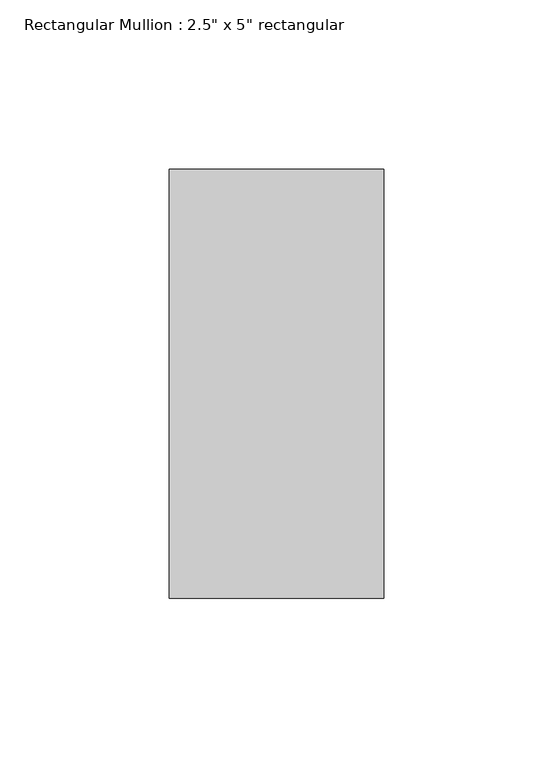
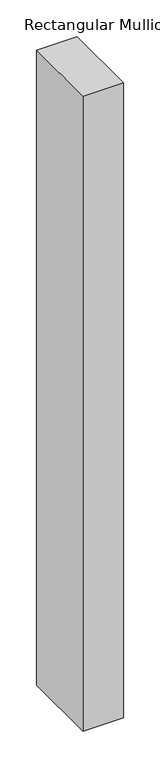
"""IFC4 building model written with IfcOpenShell, lengths in millimetres: member geometry."""

from ifc_helpers import new_model, si_unit, frame, origin, place, context, project, spatial, polyline, outline, extrude, source, transform, mapped, element, save


def member_4308a73e(model_context):
    return source(origin(), model_context, "Body", "SweptSolid", [
        extrude(outline(polyline([(31.75, 63.5), (31.75, -63.5), (-31.75, -63.5), (-31.75, 63.5), (31.75, 63.5)])), frame((0.0, 0.0, -1056.6400002), z_axis=(0.0, 0.0, 1.0), x_axis=(1.0, 0.0, 0.0)), (0.0, 0.0, 1.0), 1056.6400002),
    ])


if __name__ == "__main__":
    model = new_model("IFC4")
    model_context = context("Model", 3, world=origin())
    ifc_project = project(units=[si_unit("LENGTHUNIT", "METRE", prefix="MILLI")], contexts=[model_context])
    site = spatial("IfcSite", under=ifc_project)
    building = spatial("IfcBuilding", under=site)
    placement = place(None, origin())
    member_shape = member_4308a73e(model_context)
    element("IfcMember", 1, ObjectType="Rectangular Mullion : 2.5\" x 5\" rectangular", at=placement, inside=building, context=model_context, shape_type="MappedRepresentation", body=[
        mapped(member_shape, transform((0.0, 0.0, 0.0), x_axis=(1.0, 0.0, 0.0), y_axis=(0.0, 1.0, 0.0), z_axis=(0.0, 0.0, 1.0))),
    ])
    save(model, "model.ifc")
